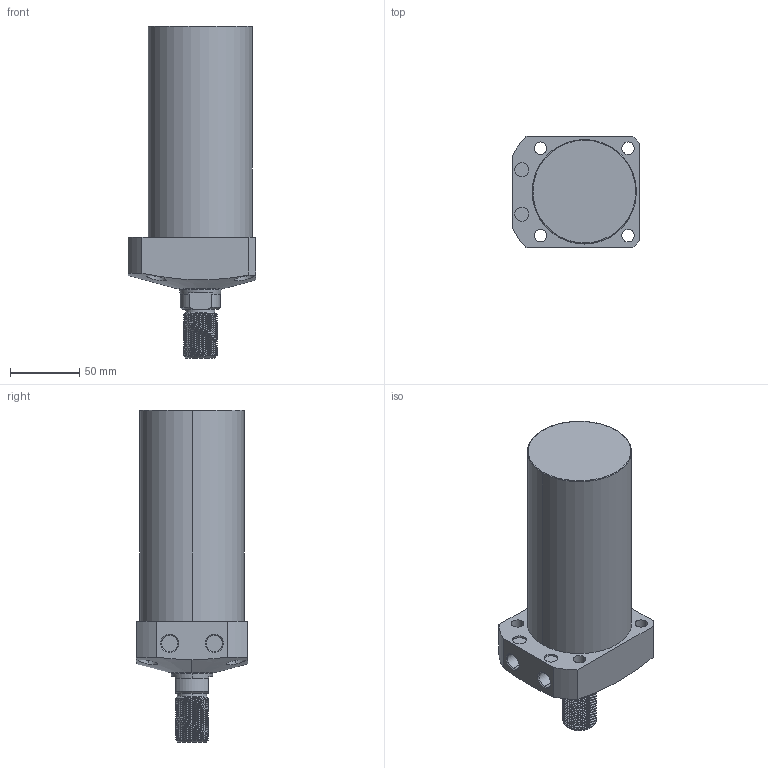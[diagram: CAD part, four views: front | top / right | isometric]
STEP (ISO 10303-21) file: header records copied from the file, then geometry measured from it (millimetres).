
FILE_DESCRIPTION (( 'STEP AP203' ), '1' );
FILE_NAME ('CLL-075CT-115.STEP', '2020-01-08T12:06:06', ( '' ), ( '' ), 'SwSTEP 2.0', 'SolidWorks 2015', '' );
FILE_SCHEMA (( 'CONFIG_CONTROL_DESIGN' ));
Length unit declared in the file: millimetre
Products named in the file (1): CLL-075CT-115
Bounding box: 92 x 80 x 239 mm (x, y, z)
Volume: 912909.9 mm3; surface area: 70509.1 mm2
Topology: 1 solids, 1 shells, 121 faces, 310 edges, 202 vertices
Faces by surface type: cylinder 77, plane 23, cone 17, torus 2, bspline 2
Entity records: 6517 total; most frequent: CARTESIAN_POINT 3727, ORIENTED_EDGE 620, DIRECTION 517, EDGE_CURVE 310, AXIS2_PLACEMENT_3D 204, VERTEX_POINT 202, EDGE_LOOP 140, ADVANCED_FACE 121
